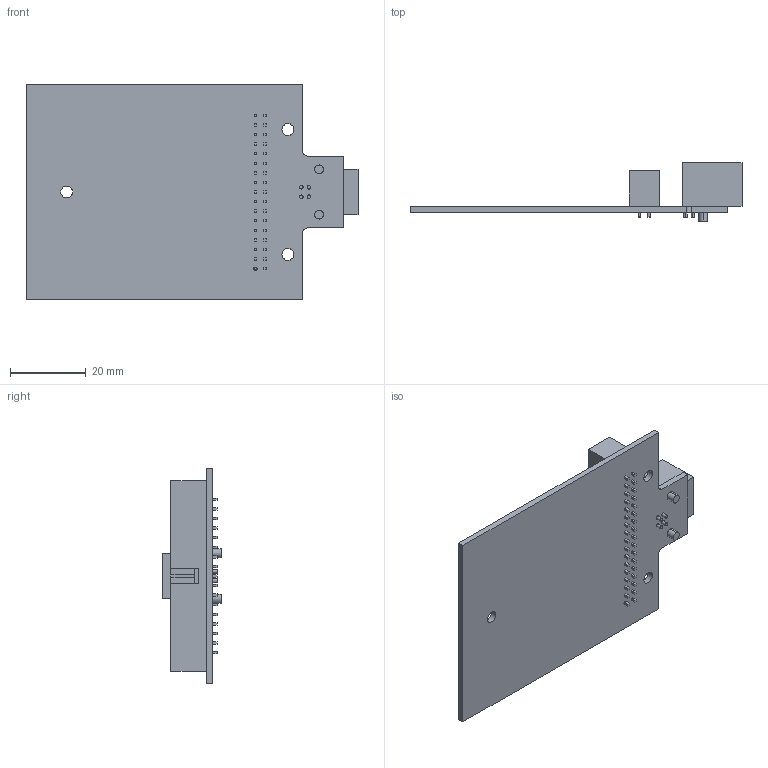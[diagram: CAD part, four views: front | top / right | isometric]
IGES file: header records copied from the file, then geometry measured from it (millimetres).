
Start section:  PTC IGES file: cu_usb_oem_600x.igs
Global section: file name: cu_usb_oem_600x.igs; native system: Pro/ENGINEER by Parametric Technology Corporation; preprocessor: 2006080; author: jpearson; organization: Unknown; date: 070829.091931; units: inch
Bounding box: 87.88 x 15.42 x 57.15 mm (x, y, z)
Surface area: 12913.1 mm2 (no closed solid volume)
Topology: 0 solids, 0 shells, 427 faces, 2080 edges, 2080 vertices
Faces by surface type: bspline 399, revolution 28
